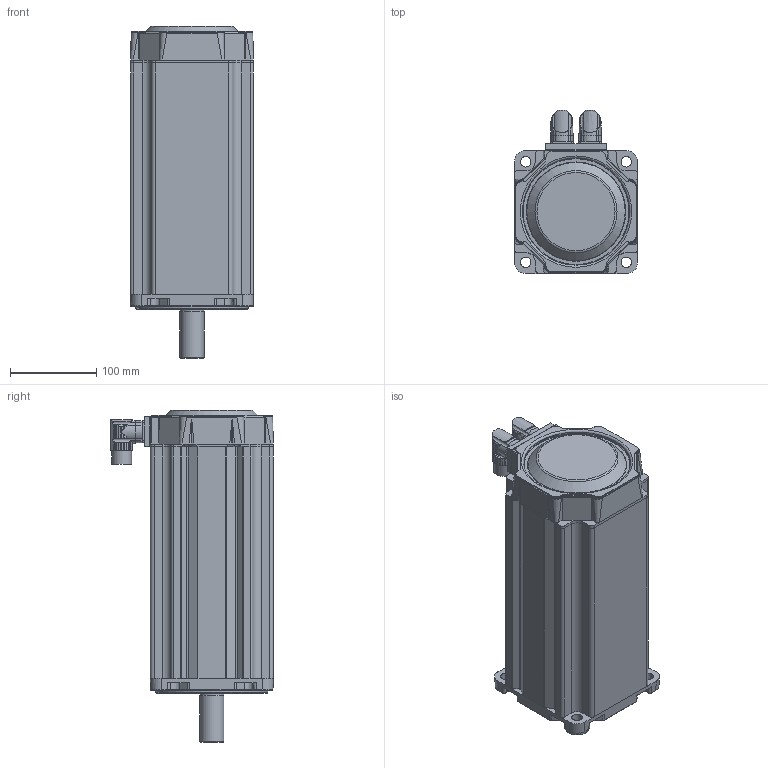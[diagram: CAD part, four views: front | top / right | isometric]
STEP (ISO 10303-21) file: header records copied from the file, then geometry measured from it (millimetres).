
FILE_DESCRIPTION((''),'2;1');
FILE_NAME('C:\CAD_work\Dummy_Modeling_Project_02-12-05\3D MODELS\MPP1428XXX_NPSN.stp','2005-12-20T17:28:58',('jevans'),(''),'Autodesk Inventor 10','Autodesk Inventor 10','');
FILE_SCHEMA(('AUTOMOTIVE_DESIGN { 1 0 10303 214 1 1 1 1 }'));
Length unit declared in the file: inch
Products named in the file (1): MPP142_MOTOR
Bounding box: 142.75 x 188.8 x 385.32 mm (x, y, z)
Volume: 5705880.7 mm3; surface area: 290855.8 mm2
Topology: 3 solids, 3 shells, 905 faces, 2284 edges, 1422 vertices
Faces by surface type: bspline 336, cylinder 287, plane 224, cone 35, torus 21, sphere 2
Full cylindrical faces by diameter (mm): 1.143 x17, 2.032 x6, 2.794 x2, 19.05 x1, 19.685 x1, 22.86 x1, 27.645 x1, 28.001 x1, 29.921 x1, 29.997 x1, 36.83 x1, 55.88 x1, 66.04 x1, 71.526 x1, 72.009 x1, 72.034 x2, 76.352 x1, 80.95 x1, 124.46 x1, 129.997 x1
Entity records: 37221 total; most frequent: CARTESIAN_POINT 17757, ORIENTED_EDGE 4334, DIRECTION 3475, EDGE_CURVE 2167, VERTEX_POINT 1398, AXIS2_PLACEMENT_3D 1344, EDGE_LOOP 1053, FACE_OUTER_BOUND 905
